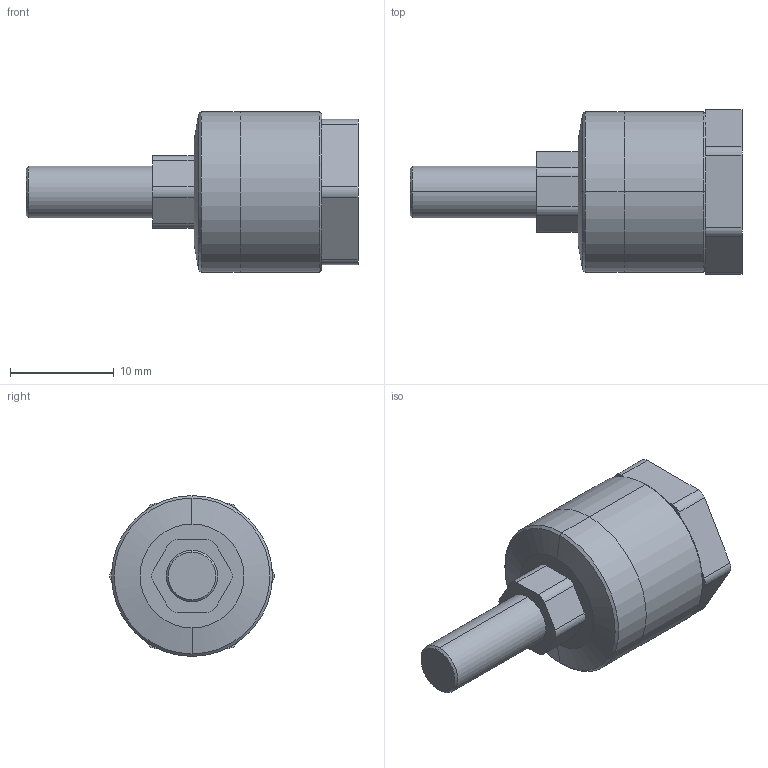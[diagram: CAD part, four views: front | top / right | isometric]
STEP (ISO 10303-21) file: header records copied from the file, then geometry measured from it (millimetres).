
FILE_DESCRIPTION (( 'STEP AP203' ), '1' );
FILE_NAME ('FCM5-0.8.STEP', '2016-03-23T03:39:48', ( 'Sam Lin' ), ( '' ), 'SwSTEP 2.0', 'SolidWorks 2013', '' );
FILE_SCHEMA (( 'CONFIG_CONTROL_DESIGN' ));
Length unit declared in the file: millimetre
Products named in the file (1): FCM5-0.8
Bounding box: 32 x 15.86 x 15.5 mm (x, y, z)
Volume: 3194.9 mm3; surface area: 1489 mm2
Topology: 1 solids, 1 shells, 58 faces, 138 edges, 83 vertices
Faces by surface type: plane 28, cylinder 20, cone 10
Entity records: 1731 total; most frequent: DIRECTION 312, CARTESIAN_POINT 278, ORIENTED_EDGE 272, EDGE_CURVE 136, AXIS2_PLACEMENT_3D 117, VERTEX_POINT 83, LINE 78, VECTOR 78
